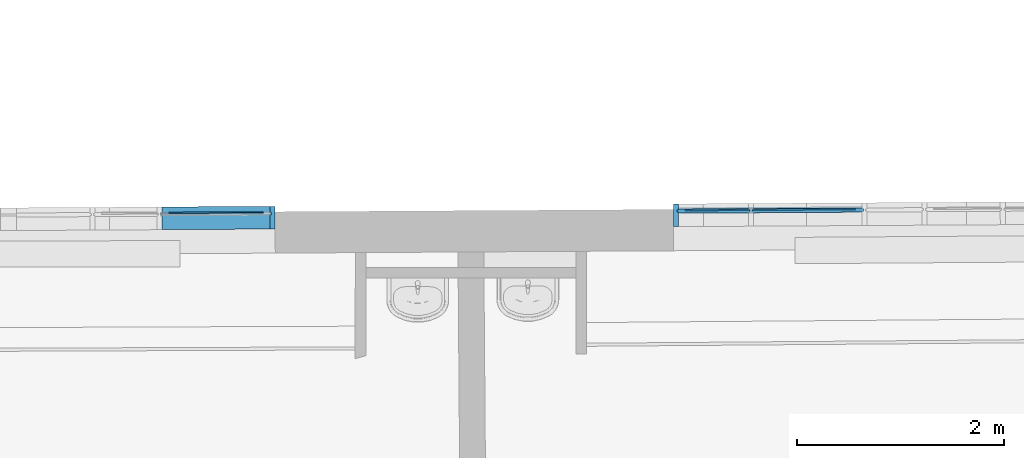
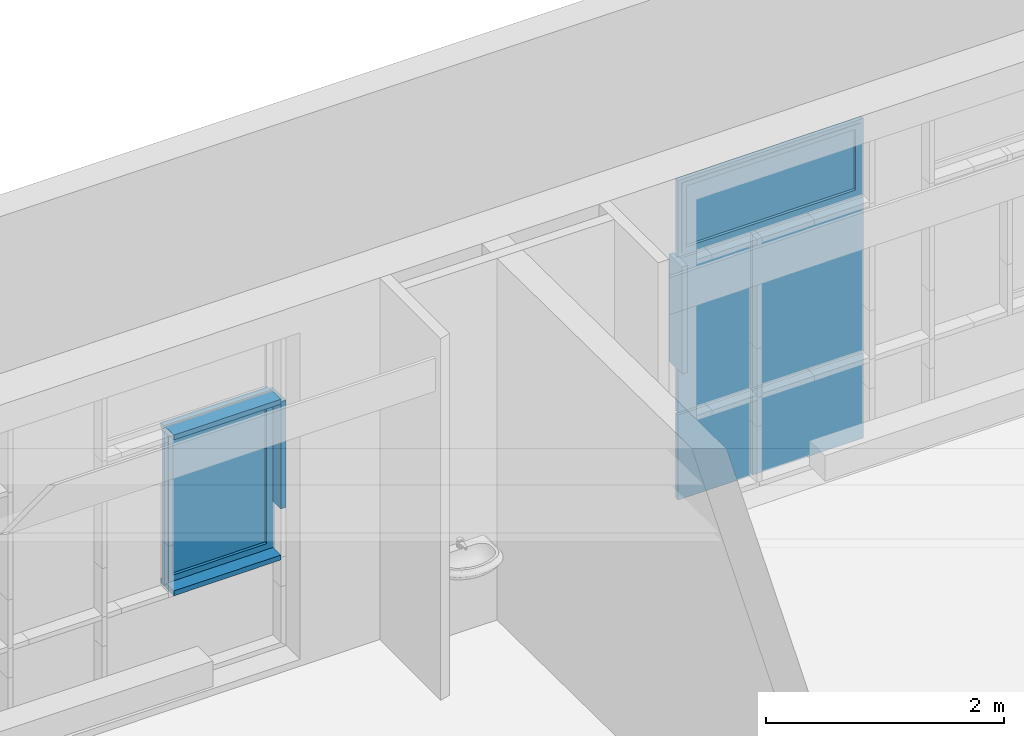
# One storey, part 131 of 196: 12 building element parts, 2 elements without a shape of their own.
"""IFC2X3 building model written with IfcOpenShell, lengths in metres."""

import ifcopenshell
import ifcopenshell.guid

model = None  # the IFC model being written
_history = None  # IfcOwnerHistory: only IFC2X3 demands one
_inside = {}  # id of a spatial element -> (the spatial element, [elements in it])
_under = {}  # id of a project, library or spatial element -> (it, [spatial elements below it])
_declared = {}  # id of a project -> (the project, [libraries it declares])
_typed = {}  # id of a type object -> (the type object, [elements of that type])
_made_of = {}  # id of a material, layer set ... -> (it, [elements and type objects made of it])


def new_model(schema):
    """Start an empty IFC model of exactly this schema.

    Asked for "IFC4X3", IfcOpenShell would pick the latest addendum, in which some entities
    have other attributes; the version numbers below select the first issue.
    IFC2X3 requires an IfcOwnerHistory on every rooted entity: one is made here for all.
    """
    global model, _history
    if schema == "IFC4X3":
        model = ifcopenshell.file(schema_version=(4, 3, 0, 0))
    else:
        model = ifcopenshell.file(schema=schema)
    _inside.clear()
    _under.clear()
    _declared.clear()
    _typed.clear()
    _made_of.clear()
    _history = None
    if model.schema == "IFC2X3":
        org = make("IfcOrganization", Name="unknown")
        user = make(
            "IfcPersonAndOrganization",
            ThePerson=make("IfcPerson", FamilyName="unknown"),
            TheOrganization=org,
        )
        app = make(
            "IfcApplication",
            ApplicationDeveloper=org,
            Version="unknown",
            ApplicationFullName="unknown",
            ApplicationIdentifier="unknown",
        )
        _history = make(
            "IfcOwnerHistory",
            OwningUser=user,
            OwningApplication=app,
            ChangeAction="ADDED",
            CreationDate=0,
        )
    return model


def make(cls, **values):
    """One entity of the class cls with the attributes given. An attribute that is None is left unset."""
    return model.create_entity(
        cls, **{name: value for name, value in values.items() if value is not None}
    )


def entity(cls, *values):
    """Any entity or typed value of the class cls, its attributes in the order of the schema. None: left unset."""
    e = model.create_entity(cls)
    for i, value in enumerate(values):
        if value is not None:
            e[i] = value
    return e


def rooted(cls, **values):
    """An entity with a GlobalId (a new one), such as an element, a storey or a relation."""
    return make(cls, GlobalId=ifcopenshell.guid.new(), OwnerHistory=_history, **values)


def si_unit(unit_type, name, prefix=None):
    """IfcSIUnit, for example si_unit("LENGTHUNIT", "METRE", prefix="MILLI")."""
    return make("IfcSIUnit", UnitType=unit_type, Prefix=prefix, Name=name)


def converted_unit(unit_type, name, factor, base, dimensions=None, offset=None):
    """IfcConversionBasedUnit, such as the inch: factor (a typed value) times the base unit."""
    return make(
        "IfcConversionBasedUnit"
        if offset is None
        else "IfcConversionBasedUnitWithOffset",
        ConversionOffset=offset,
        Dimensions=None
        if dimensions is None
        else entity("IfcDimensionalExponents", *dimensions),
        UnitType=unit_type,
        Name=name,
        ConversionFactor=make(
            "IfcMeasureWithUnit", ValueComponent=factor, UnitComponent=base
        ),
    )


def derived_unit(unit_type, elements):
    """IfcDerivedUnit: a product of units, each with its exponent."""
    return make(
        "IfcDerivedUnit",
        Elements=[
            make("IfcDerivedUnitElement", Unit=unit, Exponent=power)
            for unit, power in elements
        ],
        UnitType=unit_type,
    )


def money_unit(currency):
    """IfcMonetaryUnit."""
    return make("IfcMonetaryUnit", Currency=currency)


def assignment(units):
    """IfcUnitAssignment: the units of a project."""
    return None if units is None else make("IfcUnitAssignment", Units=units)


def point(xyz):
    """IfcCartesianPoint."""
    return None if xyz is None else make("IfcCartesianPoint", Coordinates=xyz)


def direction(xyz):
    """IfcDirection."""
    return None if xyz is None else make("IfcDirection", DirectionRatios=xyz)


def frame(location, z_axis=None, x_axis=None):
    """IfcAxis2Placement3D, a coordinate frame: its origin and axes. An axis left out is left unset."""
    return make(
        "IfcAxis2Placement3D",
        Location=point(location),
        Axis=direction(z_axis),
        RefDirection=direction(x_axis),
    )


def origin_with_axes():
    """The frame at (0, 0, 0) with the z axis (0, 0, 1) and the x axis (1, 0, 0) written out."""
    return frame((0.0, 0.0, 0.0), z_axis=(0.0, 0.0, 1.0), x_axis=(1.0, 0.0, 0.0))


def place(relative_to, where):
    """IfcLocalPlacement: puts the frame where relative to a parent placement (None: the world)."""
    return make(
        "IfcLocalPlacement", PlacementRelTo=relative_to, RelativePlacement=where
    )


def context(
    kind, dimensions, precision=None, world=None, true_north=None, identifier=None
):
    """IfcGeometricRepresentationContext, for example the 3D "Model" context."""
    return make(
        "IfcGeometricRepresentationContext",
        ContextIdentifier=identifier,
        ContextType=kind,
        CoordinateSpaceDimension=dimensions,
        Precision=precision,
        WorldCoordinateSystem=world,
        TrueNorth=true_north,
    )


def subcontext(parent, identifier, kind, view, scale=None):
    """IfcGeometricRepresentationSubContext, for example "Body" below "Model"."""
    return make(
        "IfcGeometricRepresentationSubContext",
        ContextIdentifier=identifier,
        ContextType=kind,
        ParentContext=parent,
        TargetScale=scale,
        TargetView=view,
    )


def project(units=None, contexts=None):
    """IfcProject with its units and contexts."""
    return rooted(
        "IfcProject",
        Name="project",
        RepresentationContexts=contexts,
        UnitsInContext=assignment(units),
    )


def spatial(cls, under=None, at=None, **own):
    """A site, building, storey or space (cls), placed at a placement, below another one or the project."""
    s = rooted(cls, ObjectPlacement=at, **own)
    if under is not None:
        _under.setdefault(under.id(), (under, []))[1].append(s)
    return s


def faces_of(points, faces, orient=None, outer=None):
    """IfcFace entities. A face is a list of loops; a loop is a list of indices into points, from 0.

    orient and outer hold one flag for each loop. By default every Orientation is true, the
    first loop of a face is its IfcFaceOuterBound and the others are IfcFaceBound.
    """
    made = []
    for i, loops in enumerate(faces):
        bounds = []
        for j, loop in enumerate(loops):
            is_outer = j == 0 if outer is None else outer[i][j]
            bounds.append(
                make(
                    "IfcFaceOuterBound" if is_outer else "IfcFaceBound",
                    Bound=make("IfcPolyLoop", Polygon=[points[k] for k in loop]),
                    Orientation=True if orient is None else orient[i][j],
                )
            )
        made.append(make("IfcFace", Bounds=bounds))
    return made


def faceted_brep(points, faces, orient=None, outer=None, voids=None):
    """IfcFacetedBrep: a solid bounded by flat faces; with voids (closed shells), ...WithVoids."""
    shared = [point(p) for p in points]
    hull = make("IfcClosedShell", CfsFaces=faces_of(shared, faces, orient, outer))
    if voids is None:
        return make("IfcFacetedBrep", Outer=hull)
    return make(
        "IfcFacetedBrepWithVoids",
        Outer=hull,
        Voids=[
            make(cls, CfsFaces=faces_of(shared, fs, o, b)) for cls, fs, o, b in voids
        ],
    )


def shape(context_of_items, identifier, shape_type, items):
    """IfcShapeRepresentation: the items that make up one representation, for example the "Body"."""
    return make(
        "IfcShapeRepresentation",
        ContextOfItems=context_of_items,
        RepresentationIdentifier=identifier,
        RepresentationType=shape_type,
        Items=items,
    )


def material(Name=None, Category=None):
    """IfcMaterial."""
    return make("IfcMaterial", Name=Name, Category=Category)


def made_of(thing, what):
    """Note that an element or type object is made of a material, layer set ...; save() writes the relation."""
    if what is not None:
        _made_of.setdefault(what.id(), (what, []))[1].append(thing)
    return thing


def type_object(cls, material=None, **own):
    """A type object (cls), such as IfcWallType, which elements share."""
    return made_of(rooted(cls, **own), material)


def element(
    cls,
    number,
    at=None,
    inside=None,
    cuts=None,
    type_object=None,
    material=None,
    context=None,
    identifier="Body",
    shape_type=None,
    held_by="IfcProductDefinitionShape",
    body=None,
    shapes=None,
    **own,
):
    """One element of the class cls, such as IfcWall. Its Tag is "e" and its number.

    at: its placement. inside: the storey or other place that contains it. cuts: it is an
    opening in that element (IfcRelVoidsElement). A single representation is given by context,
    identifier, shape_type and body (its items); several are given by shapes. held_by: the class
    of the entity that holds the representations. save() writes the other relations.
    """
    e = rooted(cls, Tag="e%d" % number, ObjectPlacement=at, **own)
    if body is not None:
        shapes = [shape(context, identifier, shape_type, body)]
    if shapes is not None:
        e.Representation = make(held_by, Representations=shapes)
    if inside is not None:
        _inside.setdefault(inside.id(), (inside, []))[1].append(e)
    if cuts is not None:
        rooted(
            "IfcRelVoidsElement", RelatingBuildingElement=cuts, RelatedOpeningElement=e
        )
    if type_object is not None:
        _typed.setdefault(type_object.id(), (type_object, []))[1].append(e)
    return made_of(e, material)


def aggregate(whole, parts):
    """IfcRelAggregates: a whole, such as a stair, and the parts it consists of."""
    return rooted("IfcRelAggregates", RelatingObject=whole, RelatedObjects=parts)


def save(model, path):
    """Write the relations noted so far, then the file.

    IfcRelAggregates (storeys below a building ...), IfcRelContainedInSpatialStructure (elements
    in a storey), IfcRelDefinesByType, IfcRelAssociatesMaterial and IfcRelDeclares: one each for
    every whole, place, type object, material and project.
    """
    for whole, parts in _under.values():
        aggregate(whole, parts)
    for where, things in _inside.values():
        rooted(
            "IfcRelContainedInSpatialStructure",
            RelatedElements=things,
            RelatingStructure=where,
        )
    for kind, things in _typed.values():
        rooted("IfcRelDefinesByType", RelatedObjects=things, RelatingType=kind)
    for what, things in _made_of.values():
        rooted("IfcRelAssociatesMaterial", RelatedObjects=things, RelatingMaterial=what)
    for by, libraries in _declared.values():
        rooted("IfcRelDeclares", RelatingContext=by, RelatedDefinitions=libraries)
    model.write(path)


model = new_model("IFC2X3")

# Units and contexts
model_context = context("Model", 3, precision=1e-05, world=origin_with_axes(), true_north=direction((0.0, 1.0)))
body_context = subcontext(model_context, "Body", "Model", "MODEL_VIEW")
ifc_project = project(units=[si_unit("LENGTHUNIT", "METRE"), si_unit("AREAUNIT", "SQUARE_METRE"), si_unit("VOLUMEUNIT", "CUBIC_METRE"), converted_unit("PLANEANGLEUNIT", "DEGREE", entity("IfcPlaneAngleMeasure", 0.0174532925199), si_unit("PLANEANGLEUNIT", "RADIAN"), dimensions=[0, 0, 0, 0, 0, 0, 0]), money_unit("EUR"), converted_unit("TIMEUNIT", "Year", entity("IfcTimeMeasure", 31556926.0), si_unit("TIMEUNIT", "SECOND"), dimensions=[0, 0, 1, 0, 0, 0, 0]), si_unit("MASSUNIT", "GRAM", prefix="KILO"), si_unit("THERMODYNAMICTEMPERATUREUNIT", "DEGREE_CELSIUS"), si_unit("LUMINOUSINTENSITYUNIT", "LUMEN"), si_unit("ENERGYUNIT", "JOULE", prefix="MEGA"), derived_unit("THERMALCONDUCTANCEUNIT", [(si_unit("POWERUNIT", "WATT"), 1), (si_unit("LENGTHUNIT", "METRE"), -1), (si_unit("THERMODYNAMICTEMPERATUREUNIT", "KELVIN"), -1)]), derived_unit("SPECIFICHEATCAPACITYUNIT", [(si_unit("ENERGYUNIT", "JOULE"), 1), (si_unit("MASSUNIT", "GRAM", prefix="KILO"), -1), (si_unit("THERMODYNAMICTEMPERATUREUNIT", "KELVIN"), -1)]), derived_unit("MASSDENSITYUNIT", [(si_unit("MASSUNIT", "GRAM", prefix="KILO"), 1), (si_unit("VOLUMEUNIT", "CUBIC_METRE"), -1)])], contexts=[model_context])

# Site, building, storey
site_placement = place(None, origin_with_axes())
site = spatial("IfcSite", under=ifc_project, at=site_placement, Name="Gelände", CompositionType="ELEMENT")
building_placement = place(site_placement, origin_with_axes())
building = spatial("IfcBuilding", under=site, at=building_placement, Name="Gebäude", CompositionType="ELEMENT")
storey_placement = place(building_placement, frame((0.0, 0.0, -3.0), z_axis=(0.0, 0.0, 1.0), x_axis=(1.0, 0.0, 0.0)))
storey = spatial("IfcBuildingStorey", under=building, at=storey_placement, Name="KELLERGESCHOSS", CompositionType="ELEMENT", Elevation=-3.0)

# Proxy, building element parts
building_element_proxy_type = type_object("IfcBuildingElementProxyType", Name="Fassadentyp", PredefinedType="NOTDEFINED")
proxy_1_placement = place(storey_placement, frame((-32.8906294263, 53.9050625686, 0.421025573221), z_axis=(0.0, 0.0, 1.0), x_axis=(1.0, 0.0, 0.0)))
proxy_1 = element("IfcBuildingElementProxy", 1, at=proxy_1_placement, inside=storey, type_object=building_element_proxy_type, Name="Fassade-002")
ifc_material_1 = material(Name="53_Metall, Aluminium")
building_element_part_1_placement = place(proxy_1_placement, origin_with_axes())
building_element_part_1 = element("IfcBuildingElementPart", 2, at=building_element_part_1_placement, material=ifc_material_1, Name="53_Metall, Aluminium", context=body_context, shape_type="Brep", body=[
    faceted_brep([(4.03681666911, 0.0538486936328, 0.945851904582), (2.99416972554, 0.0476890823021, 0.945851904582), (2.99414018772, 0.052688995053, 0.945851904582), (4.03678713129, 0.0588486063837, 0.945851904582), (3.99181745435, 0.0535828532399, 0.990851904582), (3.0391689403, 0.0479549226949, 0.990851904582), (3.03913940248, 0.0529548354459, 0.990851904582), (3.99178791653, 0.0585827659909, 0.990851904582)], [[[0, 1, 2, 3]], [[0, 4, 5, 1]], [[1, 5, 6, 2]], [[3, 2, 6, 7]], [[4, 0, 3, 7]], [[5, 4, 7, 6]]]),
    faceted_brep([(2.99416972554, 0.0476890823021, 0.945851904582), (2.99416972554, 0.0476890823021, 2.49500002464), (2.99414018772, 0.052688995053, 2.49500002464), (2.99414018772, 0.052688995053, 0.945851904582), (3.0391689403, 0.0479549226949, 0.990851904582), (3.0391689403, 0.0479549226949, 2.45000002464), (3.03913940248, 0.0529548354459, 2.45000002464), (3.03913940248, 0.0529548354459, 0.990851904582)], [[[0, 1, 2, 3]], [[0, 4, 5, 1]], [[1, 5, 6, 2]], [[3, 2, 6, 7]], [[4, 0, 3, 7]], [[5, 4, 7, 6]]]),
    faceted_brep([(4.03681666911, 0.0538486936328, 2.49500002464), (3.99181745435, 0.0535828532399, 2.45000002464), (3.99178791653, 0.0585827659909, 2.45000002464), (4.03678713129, 0.0588486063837, 2.49500002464), (2.99416972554, 0.0476890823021, 2.49500002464), (3.0391689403, 0.0479549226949, 2.45000002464), (3.03913940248, 0.0529548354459, 2.45000002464), (2.99414018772, 0.052688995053, 2.49500002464)], [[[0, 1, 2, 3]], [[0, 4, 5, 1]], [[1, 5, 6, 2]], [[3, 2, 6, 7]], [[4, 0, 3, 7]], [[5, 4, 7, 6]]]),
    faceted_brep([(4.03681666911, 0.0538486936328, 0.945851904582), (3.99181745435, 0.0535828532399, 0.990851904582), (3.99178791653, 0.0585827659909, 0.990851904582), (4.03678713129, 0.0588486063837, 0.945851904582), (4.03681666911, 0.0538486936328, 2.49500002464), (3.99181745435, 0.0535828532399, 2.45000002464), (3.99178791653, 0.0585827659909, 2.45000002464), (4.03678713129, 0.0588486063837, 2.49500002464)], [[[0, 1, 2, 3]], [[0, 4, 5, 1]], [[1, 5, 6, 2]], [[3, 2, 6, 7]], [[4, 0, 3, 7]], [[5, 4, 7, 6]]]),
    faceted_brep([(4.03711204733, 0.0038495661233, 0.945851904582), (2.99446510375, -0.00231004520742, 0.945851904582), (2.99416972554, 0.0476890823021, 0.945851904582), (4.03681666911, 0.0538486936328, 0.945851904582), (4.01711239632, 0.00373141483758, 0.965851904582), (3.01446475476, -0.0021918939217, 0.965851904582), (3.01416937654, 0.0478072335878, 0.965851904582), (4.01681701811, 0.0537305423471, 0.965851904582)], [[[0, 1, 2, 3]], [[0, 4, 5, 1]], [[1, 5, 6, 2]], [[3, 2, 6, 7]], [[4, 0, 3, 7]], [[5, 4, 7, 6]]]),
    faceted_brep([(2.99446510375, -0.00231004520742, 0.945851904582), (2.99446510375, -0.00231004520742, 2.49500002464), (2.99416972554, 0.0476890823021, 2.49500002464), (2.99416972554, 0.0476890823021, 0.945851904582), (3.01446475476, -0.0021918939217, 0.965851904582), (3.01446475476, -0.0021918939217, 2.47500002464), (3.01416937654, 0.0478072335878, 2.47500002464), (3.01416937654, 0.0478072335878, 0.965851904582)], [[[0, 1, 2, 3]], [[0, 4, 5, 1]], [[1, 5, 6, 2]], [[3, 2, 6, 7]], [[4, 0, 3, 7]], [[5, 4, 7, 6]]]),
    faceted_brep([(4.03711204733, 0.0038495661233, 2.49500002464), (4.01711239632, 0.00373141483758, 2.47500002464), (4.01681701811, 0.0537305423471, 2.47500002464), (4.03681666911, 0.0538486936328, 2.49500002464), (2.99446510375, -0.00231004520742, 2.49500002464), (3.01446475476, -0.0021918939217, 2.47500002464), (3.01416937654, 0.0478072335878, 2.47500002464), (2.99416972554, 0.0476890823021, 2.49500002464)], [[[0, 1, 2, 3]], [[0, 4, 5, 1]], [[1, 5, 6, 2]], [[3, 2, 6, 7]], [[4, 0, 3, 7]], [[5, 4, 7, 6]]]),
    faceted_brep([(4.03711204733, 0.0038495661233, 0.945851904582), (4.01711239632, 0.00373141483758, 0.965851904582), (4.01681701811, 0.0537305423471, 0.965851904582), (4.03681666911, 0.0538486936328, 0.945851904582), (4.03711204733, 0.0038495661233, 2.49500002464), (4.01711239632, 0.00373141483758, 2.47500002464), (4.01681701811, 0.0537305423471, 2.47500002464), (4.03681666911, 0.0538486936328, 2.49500002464)], [[[0, 1, 2, 3]], [[0, 4, 5, 1]], [[1, 5, 6, 2]], [[3, 2, 6, 7]], [[4, 0, 3, 7]], [[5, 4, 7, 6]]]),
    faceted_brep([(4.05211178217, 0.00393817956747, 0.930851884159), (2.97946536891, -0.00239865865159, 0.930851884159), (2.97922906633, 0.037600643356, 0.930851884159), (4.0518754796, 0.0439374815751, 0.930851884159), (4.03711204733, 0.0038495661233, 0.945851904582), (2.99446510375, -0.00231004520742, 0.945851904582), (2.99422880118, 0.0376892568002, 0.945851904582), (4.03687574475, 0.0438488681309, 0.945851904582)], [[[0, 1, 2, 3]], [[0, 4, 5, 1]], [[1, 5, 6, 2]], [[3, 2, 6, 7]], [[4, 0, 3, 7]], [[5, 4, 7, 6]]]),
    faceted_brep([(2.97946536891, -0.00239865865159, 0.930851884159), (2.97946536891, -0.00239865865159, 2.51000004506), (2.97922906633, 0.037600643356, 2.51000004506), (2.97922906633, 0.037600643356, 0.930851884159), (2.99446510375, -0.00231004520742, 0.945851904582), (2.99446510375, -0.00231004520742, 2.49500002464), (2.99422880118, 0.0376892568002, 2.49500002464), (2.99422880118, 0.0376892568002, 0.945851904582)], [[[0, 1, 2, 3]], [[0, 4, 5, 1]], [[1, 5, 6, 2]], [[3, 2, 6, 7]], [[4, 0, 3, 7]], [[5, 4, 7, 6]]]),
    faceted_brep([(2.97946536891, -0.00239865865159, 2.51000004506), (4.05211178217, 0.00393817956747, 2.51000004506), (4.0518754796, 0.0439374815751, 2.51000004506), (2.97922906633, 0.037600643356, 2.51000004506), (2.99446510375, -0.00231004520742, 2.49500002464), (4.03711204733, 0.0038495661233, 2.49500002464), (4.03687574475, 0.0438488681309, 2.49500002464), (2.99422880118, 0.0376892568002, 2.49500002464)], [[[0, 1, 2, 3]], [[0, 4, 5, 1]], [[1, 5, 6, 2]], [[3, 2, 6, 7]], [[4, 0, 3, 7]], [[5, 4, 7, 6]]]),
    faceted_brep([(4.05211178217, 0.00393817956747, 2.51000004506), (4.05211178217, 0.00393817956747, 0.930851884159), (4.0518754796, 0.0439374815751, 0.930851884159), (4.0518754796, 0.0439374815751, 2.51000004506), (4.03711204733, 0.0038495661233, 2.49500002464), (4.03711204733, 0.0038495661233, 0.945851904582), (4.03687574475, 0.0438488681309, 0.945851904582), (4.03687574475, 0.0438488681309, 2.49500002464)], [[[0, 1, 2, 3]], [[0, 4, 5, 1]], [[1, 5, 6, 2]], [[3, 2, 6, 7]], [[4, 0, 3, 7]], [[5, 4, 7, 6]]]),
    faceted_brep([(3.97181780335, 0.0534647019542, 1.01085190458), (3.97214271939, -0.00153433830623, 1.01085190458), (3.97214271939, -0.00153433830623, 2.43000002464), (3.97181780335, 0.0534647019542, 2.43000002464), (4.01681701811, 0.0537305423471, 0.965851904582), (4.01714193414, -0.00126849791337, 0.965851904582), (4.01714193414, -0.00126849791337, 2.47500002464), (4.01681701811, 0.0537305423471, 2.47500002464)], [[[0, 1, 2, 3]], [[4, 5, 1, 0]], [[1, 5, 6, 2]], [[3, 2, 6, 7]], [[0, 3, 7, 4]], [[7, 6, 5, 4]]]),
    faceted_brep([(3.01416937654, 0.0478072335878, 0.965851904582), (3.01449429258, -0.00719180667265, 0.965851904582), (3.01449429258, -0.00719180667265, 2.47500002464), (3.01416937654, 0.0478072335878, 2.47500002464), (3.0591685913, 0.0480730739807, 1.01085190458), (3.05949350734, -0.00692596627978, 1.01085190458), (3.05949350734, -0.00692596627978, 2.43000002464), (3.0591685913, 0.0480730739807, 2.43000002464)], [[[0, 1, 2, 3]], [[4, 5, 1, 0]], [[1, 5, 6, 2]], [[3, 2, 6, 7]], [[0, 3, 7, 4]], [[7, 6, 5, 4]]]),
    faceted_brep([(3.01416937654, 0.0478072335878, 0.965851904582), (3.01449429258, -0.00719180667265, 0.965851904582), (3.05949350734, -0.00692596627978, 1.01085190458), (3.0591685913, 0.0480730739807, 1.01085190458), (4.01681701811, 0.0537305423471, 0.965851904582), (4.01714193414, -0.00126849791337, 0.965851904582), (3.97214271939, -0.00153433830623, 1.01085190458), (3.97181780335, 0.0534647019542, 1.01085190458)], [[[0, 1, 2, 3]], [[4, 5, 1, 0]], [[1, 5, 6, 2]], [[3, 2, 6, 7]], [[0, 3, 7, 4]], [[7, 6, 5, 4]]]),
    faceted_brep([(4.01681701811, 0.0537305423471, 2.47500002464), (4.01714193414, -0.00126849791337, 2.47500002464), (3.97214271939, -0.00153433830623, 2.43000002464), (3.97181780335, 0.0534647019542, 2.43000002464), (3.01416937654, 0.0478072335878, 2.47500002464), (3.01449429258, -0.00719180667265, 2.47500002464), (3.05949350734, -0.00692596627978, 2.43000002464), (3.0591685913, 0.0480730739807, 2.43000002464)], [[[0, 1, 2, 3]], [[4, 5, 1, 0]], [[1, 5, 6, 2]], [[3, 2, 6, 7]], [[0, 3, 7, 4]], [[7, 6, 5, 4]]]),
])
ifc_material_2 = material(Name="45_Glas, Normalglas")
building_element_part_2_placement = place(proxy_1_placement, origin_with_axes())
building_element_part_2 = element("IfcBuildingElementPart", 3, at=building_element_part_2_placement, material=ifc_material_2, Name="45_Glas, Normalglas", context=body_context, shape_type="Brep", body=[
    faceted_brep([(3.97187687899, 0.0434648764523, 1.01085190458), (3.97197140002, 0.0274651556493, 1.01085190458), (3.05932218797, 0.0220735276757, 1.01085190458), (3.05922766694, 0.0380732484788, 1.01085190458), (3.97187687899, 0.0434648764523, 2.43000002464), (3.97197140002, 0.0274651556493, 2.43000002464), (3.05932218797, 0.0220735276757, 2.43000002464), (3.05922766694, 0.0380732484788, 2.43000002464)], [[[0, 1, 2, 3]], [[4, 5, 1, 0]], [[1, 5, 6, 2]], [[3, 2, 6, 7]], [[0, 3, 7, 4]], [[7, 6, 5, 4]]]),
])
building_element_part_3_placement = place(proxy_1_placement, origin_with_axes())
building_element_part_3 = element("IfcBuildingElementPart", 4, at=building_element_part_3_placement, material=ifc_material_1, Name="53_Metall, Aluminium", context=body_context, shape_type="Brep", body=[
    faceted_brep([(2.99440603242, 0.00768978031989, 2.51000003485), (2.99440603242, 0.00768978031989, 2.49500003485), (2.99523309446, -0.132307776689, 2.49500003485), (2.99523309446, -0.132307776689, 2.54500003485), (2.99440603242, 0.00768978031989, 2.54500003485), (2.99440603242, 0.00768978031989, 2.53000003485), (2.9942878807, 0.0276894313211, 2.53000003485), (2.9942878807, 0.0276894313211, 2.54500003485), (2.99393342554, 0.0876883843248, 2.54500003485), (2.99393342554, 0.0876883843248, 2.49500003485), (2.9942878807, 0.0276894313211, 2.49500003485), (2.9942878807, 0.0276894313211, 2.51000003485), (4.03705296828, 0.0138493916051, 2.51000003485), (4.03705296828, 0.0138493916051, 2.49500003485), (4.03788002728, -0.126148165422, 2.49500003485), (4.03788002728, -0.126148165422, 2.54500003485), (4.03705296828, 0.0138493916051, 2.54500003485), (4.03705296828, 0.0138493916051, 2.53000003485), (4.03693481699, 0.0338490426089, 2.53000003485), (4.03693481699, 0.0338490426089, 2.54500003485), (4.03658036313, 0.0938479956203, 2.54500003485), (4.03658036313, 0.0938479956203, 2.49500003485), (4.03693481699, 0.0338490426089, 2.49500003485), (4.03693481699, 0.0338490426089, 2.51000003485)], [[[0, 1, 2, 3, 4, 5, 6, 7, 8, 9, 10, 11]], [[1, 0, 12, 13]], [[1, 13, 14, 2]], [[2, 14, 15, 3]], [[4, 3, 15, 16]], [[4, 16, 17, 5]], [[5, 17, 18, 6]], [[7, 6, 18, 19]], [[19, 20, 8, 7]], [[8, 20, 21, 9]], [[22, 10, 9, 21]], [[11, 10, 22, 23]], [[0, 11, 23, 12]], [[23, 22, 21, 20, 19, 18, 17, 16, 15, 14, 13, 12]]]),
])
building_element_part_4_placement = place(proxy_1_placement, origin_with_axes())
building_element_part_4 = element("IfcBuildingElementPart", 5, at=building_element_part_4_placement, material=ifc_material_1, Name="53_Metall, Aluminium", context=body_context, shape_type="Brep", body=[
    faceted_brep([(2.99440603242, 0.00768978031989, 0.910851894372), (2.99440603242, 0.00768978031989, 0.895851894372), (2.99523309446, -0.132307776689, 0.895851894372), (2.99523309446, -0.132307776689, 0.945851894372), (2.99440603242, 0.00768978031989, 0.945851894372), (2.99440603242, 0.00768978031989, 0.930851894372), (2.9942878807, 0.0276894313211, 0.930851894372), (2.9942878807, 0.0276894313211, 0.945851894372), (2.99393342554, 0.0876883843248, 0.945851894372), (2.99393342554, 0.0876883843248, 0.895851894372), (2.9942878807, 0.0276894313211, 0.895851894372), (2.9942878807, 0.0276894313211, 0.910851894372), (4.03705296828, 0.0138493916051, 0.910851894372), (4.03705296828, 0.0138493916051, 0.895851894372), (4.03788002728, -0.126148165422, 0.895851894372), (4.03788002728, -0.126148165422, 0.945851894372), (4.03705296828, 0.0138493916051, 0.945851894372), (4.03705296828, 0.0138493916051, 0.930851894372), (4.03693481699, 0.0338490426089, 0.930851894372), (4.03693481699, 0.0338490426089, 0.945851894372), (4.03658036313, 0.0938479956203, 0.945851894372), (4.03658036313, 0.0938479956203, 0.895851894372), (4.03693481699, 0.0338490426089, 0.895851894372), (4.03693481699, 0.0338490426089, 0.910851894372)], [[[0, 1, 2, 3, 4, 5, 6, 7, 8, 9, 10, 11]], [[1, 0, 12, 13]], [[1, 13, 14, 2]], [[2, 14, 15, 3]], [[4, 3, 15, 16]], [[4, 16, 17, 5]], [[5, 17, 18, 6]], [[7, 6, 18, 19]], [[19, 20, 8, 7]], [[8, 20, 21, 9]], [[22, 10, 9, 21]], [[11, 10, 22, 23]], [[0, 11, 23, 12]], [[23, 22, 21, 20, 19, 18, 17, 16, 15, 14, 13, 12]]]),
])
building_element_part_5_placement = place(proxy_1_placement, origin_with_axes())
building_element_part_5 = element("IfcBuildingElementPart", 6, at=building_element_part_5_placement, material=ifc_material_1, Name="53_Metall, Aluminium", context=body_context, shape_type="Brep", body=[
    faceted_brep([(4.05205270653, 0.0139380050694, 2.52000003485), (4.03705296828, 0.0138493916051, 2.52000003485), (4.03788002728, -0.126148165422, 2.52000003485), (4.08787915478, -0.125852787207, 2.52000003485), (4.08657949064, 0.0941433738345, 2.52000003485), (4.03658036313, 0.0938479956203, 2.52000003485), (4.03693481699, 0.0338490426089, 2.52000003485), (4.05193455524, 0.0339376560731, 2.52000003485), (4.05205270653, 0.0139380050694, 1.42000003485), (4.03705296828, 0.0138493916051, 1.42000003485), (4.03788002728, -0.126148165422, 1.42000003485), (4.08787915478, -0.125852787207, 1.42000003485), (4.08657949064, 0.0941433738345, 1.42000003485), (4.03658036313, 0.0938479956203, 1.42000003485), (4.03693481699, 0.0338490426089, 1.42000003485), (4.05193455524, 0.0339376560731, 1.42000003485)], [[[0, 1, 2, 3, 4, 5, 6, 7]], [[0, 8, 9, 1]], [[9, 10, 2, 1]], [[10, 11, 3, 2]], [[11, 12, 4, 3]], [[12, 13, 5, 4]], [[6, 5, 13, 14]], [[14, 15, 7, 6]], [[7, 15, 8, 0]], [[8, 15, 14, 13, 12, 11, 10, 9]]]),
])
aggregate(proxy_1, [building_element_part_1, building_element_part_2, building_element_part_3, building_element_part_4, building_element_part_5])

proxy_2_placement = place(storey_placement, frame((-23.6479994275, 53.9595773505, 0.421025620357), z_axis=(0.0, 0.0, 1.0), x_axis=(1.0, 0.0, 0.0)))
proxy_2 = element("IfcBuildingElementProxy", 7, at=proxy_2_placement, inside=storey, type_object=building_element_proxy_type, Name="Fassade-002")
building_element_part_6_placement = place(proxy_2_placement, origin_with_axes())
building_element_part_6 = element("IfcBuildingElementPart", 8, at=building_element_part_6_placement, material=ifc_material_2, Name="45_Glas, Normalglas", context=body_context, shape_type="Brep", body=[
    faceted_brep([(-0.536861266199, -0.0231719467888, 2.5099999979), (-0.00814320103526, -0.0200484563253, 2.5099999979), (-0.00837950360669, 0.0199508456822, 2.5099999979), (-0.537097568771, 0.0168273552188, 2.5099999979), (-0.536861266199, -0.0231719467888, 1.41999998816), (-0.536861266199, -0.0231719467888, 0.930851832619), (-0.00814320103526, -0.0200484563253, 0.930851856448), (0.542605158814, -0.0167948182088, 0.930851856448), (0.542605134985, -0.0167948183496, 1.41999998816), (0.542605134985, -0.0167948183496, 2.5099999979), (0.542368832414, 0.023204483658, 2.5099999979), (0.542368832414, 0.023204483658, 1.41999998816), (0.542368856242, 0.0232044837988, 0.930851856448), (-0.00837950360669, 0.0199508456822, 0.930851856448), (-0.537097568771, 0.0168273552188, 0.930851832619), (-0.537097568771, 0.0168273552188, 1.41999998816)], [[[0, 1, 2, 3]], [[0, 4, 5, 6, 7, 8, 9, 1]], [[1, 9, 10, 2]], [[3, 2, 10, 11, 12, 13, 14, 15]], [[4, 0, 3, 15]], [[5, 4, 15, 14]], [[6, 5, 14, 13]], [[7, 6, 13, 12]], [[8, 7, 12, 11]], [[9, 8, 11, 10]]]),
])
building_element_part_7_placement = place(proxy_2_placement, origin_with_axes())
building_element_part_7 = element("IfcBuildingElementPart", 9, at=building_element_part_7_placement, material=ifc_material_2, Name="45_Glas, Normalglas", context=body_context, shape_type="Brep", body=[
    faceted_brep([(-0.536861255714, -0.0231719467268, 0.91085185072), (-0.00814321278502, -0.0200484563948, 0.91085185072), (-0.00837951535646, 0.0199508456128, 0.91085185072), (-0.537097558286, 0.0168273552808, 0.91085185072), (-0.536861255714, -0.0231719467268, 0.619999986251), (-0.536861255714, -0.0231719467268, 0.0349999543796), (-0.00814321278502, -0.0200484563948, 0.0349999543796), (0.542605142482, -0.0167948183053, 0.0349999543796), (0.542605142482, -0.0167948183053, 0.619999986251), (0.542605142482, -0.0167948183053, 0.91085185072), (0.542368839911, 0.0232044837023, 0.91085185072), (0.542368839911, 0.0232044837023, 0.619999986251), (0.542368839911, 0.0232044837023, 0.0349999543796), (-0.00837951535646, 0.0199508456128, 0.0349999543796), (-0.537097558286, 0.0168273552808, 0.0349999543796), (-0.537097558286, 0.0168273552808, 0.619999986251)], [[[0, 1, 2, 3]], [[0, 4, 5, 6, 7, 8, 9, 1]], [[1, 9, 10, 2]], [[3, 2, 10, 11, 12, 13, 14, 15]], [[4, 0, 3, 15]], [[5, 4, 15, 14]], [[6, 5, 14, 13]], [[7, 6, 13, 12]], [[8, 7, 12, 11]], [[9, 8, 11, 10]]]),
])
building_element_part_8_placement = place(proxy_2_placement, origin_with_axes())
building_element_part_8 = element("IfcBuildingElementPart", 10, at=building_element_part_8_placement, material=ifc_material_2, Name="45_Glas, Normalglas", context=body_context, shape_type="Brep", body=[
    faceted_brep([(-1.26257519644, -0.0274592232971, 2.50999999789), (-1.00812576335, -0.0259560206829, 2.50999999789), (-1.00836206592, 0.0140432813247, 2.50999999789), (-1.26281149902, 0.0125400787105, 2.50999999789), (-1.26257519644, -0.0274592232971, 1.41999998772), (-1.26257519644, -0.0274592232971, 0.930851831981), (-1.00812576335, -0.0259560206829, 0.930851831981), (-0.556860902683, -0.0232900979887, 0.930851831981), (-0.556860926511, -0.0232900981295, 1.41999998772), (-0.556860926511, -0.0232900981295, 2.50999999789), (-0.557097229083, 0.0167092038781, 2.50999999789), (-0.557097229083, 0.0167092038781, 1.41999998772), (-0.557097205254, 0.0167092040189, 0.930851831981), (-1.00836206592, 0.0140432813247, 0.930851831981), (-1.26281149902, 0.0125400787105, 0.930851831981), (-1.26281149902, 0.0125400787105, 1.41999998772)], [[[0, 1, 2, 3]], [[0, 4, 5, 6, 7, 8, 9, 1]], [[1, 9, 10, 2]], [[3, 2, 10, 11, 12, 13, 14, 15]], [[4, 0, 3, 15]], [[5, 4, 15, 14]], [[6, 5, 14, 13]], [[7, 6, 13, 12]], [[8, 7, 12, 11]], [[9, 8, 11, 10]]]),
])
building_element_part_9_placement = place(proxy_2_placement, origin_with_axes())
building_element_part_9 = element("IfcBuildingElementPart", 11, at=building_element_part_9_placement, material=ifc_material_2, Name="45_Glas, Normalglas", context=body_context, shape_type="Brep", body=[
    faceted_brep([(-1.26257520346, -0.0274592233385, 0.910851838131), (-1.00812576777, -0.0259560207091, 0.910851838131), (-1.00836207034, 0.0140432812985, 0.910851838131), (-1.26281150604, 0.0125400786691, 0.910851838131), (-1.26257520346, -0.0274592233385, 0.619999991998), (-1.26257520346, -0.0274592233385, 0.0349999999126), (-1.00812575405, -0.025956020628, 0.0349999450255), (-0.5568609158, -0.0232900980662, 0.0349999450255), (-0.5568609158, -0.0232900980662, 0.619999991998), (-0.5568609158, -0.0232900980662, 0.910851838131), (-0.557097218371, 0.0167092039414, 0.910851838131), (-0.557097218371, 0.0167092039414, 0.619999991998), (-0.557097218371, 0.0167092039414, 0.0349999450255), (-1.00836205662, 0.0140432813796, 0.0349999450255), (-1.26281150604, 0.0125400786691, 0.0349999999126), (-1.26281150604, 0.0125400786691, 0.619999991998)], [[[0, 1, 2, 3]], [[0, 4, 5, 6, 7, 8, 9, 1]], [[1, 9, 10, 2]], [[3, 2, 10, 11, 12, 13, 14, 15]], [[4, 0, 3, 15]], [[5, 4, 15, 14]], [[6, 5, 14, 13]], [[7, 6, 13, 12]], [[8, 7, 12, 11]], [[9, 8, 11, 10]]]),
])
building_element_part_10_placement = place(proxy_2_placement, origin_with_axes())
building_element_part_10 = element("IfcBuildingElementPart", 12, at=building_element_part_10_placement, material=ifc_material_1, Name="53_Metall, Aluminium", context=body_context, shape_type="Brep", body=[
    faceted_brep([(0.527310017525, 0.0331156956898, 2.54499999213), (-1.24787083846, 0.0226285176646, 2.54499999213), (-1.24790037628, 0.0276284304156, 2.54499999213), (0.527280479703, 0.0381156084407, 2.54499999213), (0.482310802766, 0.0328498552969, 2.58999999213), (-1.2028716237, 0.0228943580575, 2.58999999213), (-1.20290116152, 0.0278942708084, 2.58999999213), (0.482281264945, 0.0378497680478, 2.58999999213)], [[[0, 1, 2, 3]], [[0, 4, 5, 1]], [[1, 5, 6, 2]], [[3, 2, 6, 7]], [[4, 0, 3, 7]], [[5, 4, 7, 6]]]),
    faceted_brep([(-1.24787083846, 0.0226285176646, 2.54499999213), (-1.24787083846, 0.0226285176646, 3.29999989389), (-1.24790037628, 0.0276284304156, 3.29999989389), (-1.24790037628, 0.0276284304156, 2.54499999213), (-1.2028716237, 0.0228943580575, 2.58999999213), (-1.2028716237, 0.0228943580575, 3.25499989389), (-1.20290116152, 0.0278942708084, 3.25499989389), (-1.20290116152, 0.0278942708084, 2.58999999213)], [[[0, 1, 2, 3]], [[0, 4, 5, 1]], [[1, 5, 6, 2]], [[3, 2, 6, 7]], [[4, 0, 3, 7]], [[5, 4, 7, 6]]]),
    faceted_brep([(0.527310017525, 0.0331156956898, 3.29999989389), (0.482310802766, 0.0328498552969, 3.25499989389), (0.482281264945, 0.0378497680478, 3.25499989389), (0.527280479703, 0.0381156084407, 3.29999989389), (-1.24787083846, 0.0226285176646, 3.29999989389), (-1.2028716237, 0.0228943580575, 3.25499989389), (-1.20290116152, 0.0278942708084, 3.25499989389), (-1.24790037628, 0.0276284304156, 3.29999989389)], [[[0, 1, 2, 3]], [[0, 4, 5, 1]], [[1, 5, 6, 2]], [[3, 2, 6, 7]], [[4, 0, 3, 7]], [[5, 4, 7, 6]]]),
    faceted_brep([(0.527310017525, 0.0331156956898, 2.54499999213), (0.482310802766, 0.0328498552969, 2.58999999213), (0.482281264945, 0.0378497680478, 2.58999999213), (0.527280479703, 0.0381156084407, 2.54499999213), (0.527310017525, 0.0331156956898, 3.29999989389), (0.482310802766, 0.0328498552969, 3.25499989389), (0.482281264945, 0.0378497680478, 3.25499989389), (0.527280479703, 0.0381156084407, 3.29999989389)], [[[0, 1, 2, 3]], [[0, 4, 5, 1]], [[1, 5, 6, 2]], [[3, 2, 6, 7]], [[4, 0, 3, 7]], [[5, 4, 7, 6]]]),
    faceted_brep([(0.527605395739, -0.0168834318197, 2.54499999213), (-1.24757546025, -0.0273706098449, 2.54499999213), (-1.24787083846, 0.0226285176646, 2.54499999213), (0.527310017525, 0.0331156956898, 2.54499999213), (0.507605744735, -0.0170015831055, 2.56499999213), (-1.22757580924, -0.0272524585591, 2.56499999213), (-1.22787118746, 0.0227466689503, 2.56499999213), (0.507310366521, 0.032997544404, 2.56499999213)], [[[0, 1, 2, 3]], [[0, 4, 5, 1]], [[1, 5, 6, 2]], [[3, 2, 6, 7]], [[4, 0, 3, 7]], [[5, 4, 7, 6]]]),
    faceted_brep([(-1.24757546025, -0.0273706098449, 2.54499999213), (-1.24757546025, -0.0273706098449, 3.29999989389), (-1.24787083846, 0.0226285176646, 3.29999989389), (-1.24787083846, 0.0226285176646, 2.54499999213), (-1.22757580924, -0.0272524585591, 2.56499999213), (-1.22757580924, -0.0272524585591, 3.27999989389), (-1.22787118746, 0.0227466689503, 3.27999989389), (-1.22787118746, 0.0227466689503, 2.56499999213)], [[[0, 1, 2, 3]], [[0, 4, 5, 1]], [[1, 5, 6, 2]], [[3, 2, 6, 7]], [[4, 0, 3, 7]], [[5, 4, 7, 6]]]),
    faceted_brep([(0.527605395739, -0.0168834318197, 3.29999989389), (0.507605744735, -0.0170015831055, 3.27999989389), (0.507310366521, 0.032997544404, 3.27999989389), (0.527310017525, 0.0331156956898, 3.29999989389), (-1.24757546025, -0.0273706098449, 3.29999989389), (-1.22757580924, -0.0272524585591, 3.27999989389), (-1.22787118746, 0.0227466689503, 3.27999989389), (-1.24787083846, 0.0226285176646, 3.29999989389)], [[[0, 1, 2, 3]], [[0, 4, 5, 1]], [[1, 5, 6, 2]], [[3, 2, 6, 7]], [[4, 0, 3, 7]], [[5, 4, 7, 6]]]),
    faceted_brep([(0.527605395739, -0.0168834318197, 2.54499999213), (0.507605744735, -0.0170015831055, 2.56499999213), (0.507310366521, 0.032997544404, 2.56499999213), (0.527310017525, 0.0331156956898, 2.54499999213), (0.527605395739, -0.0168834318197, 3.29999989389), (0.507605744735, -0.0170015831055, 3.27999989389), (0.507310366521, 0.032997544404, 3.27999989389), (0.527310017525, 0.0331156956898, 3.29999989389)], [[[0, 1, 2, 3]], [[0, 4, 5, 1]], [[1, 5, 6, 2]], [[3, 2, 6, 7]], [[4, 0, 3, 7]], [[5, 4, 7, 6]]]),
    faceted_brep([(0.542605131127, -0.0167948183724, 2.52999999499), (-1.26257519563, -0.0274592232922, 2.52999999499), (-1.2628114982, 0.0125400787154, 2.52999999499), (0.542368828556, 0.0232044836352, 2.52999999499), (0.527605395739, -0.0168834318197, 2.54499999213), (-1.24757546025, -0.0273706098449, 2.54499999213), (-1.24781176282, 0.0126286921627, 2.54499999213), (0.527369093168, 0.0231158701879, 2.54499999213)], [[[0, 1, 2, 3]], [[0, 4, 5, 1]], [[1, 5, 6, 2]], [[3, 2, 6, 7]], [[4, 0, 3, 7]], [[5, 4, 7, 6]]]),
    faceted_brep([(-1.26257519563, -0.0274592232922, 2.52999999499), (-1.26257519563, -0.0274592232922, 3.31499989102), (-1.2628114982, 0.0125400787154, 3.31499989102), (-1.2628114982, 0.0125400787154, 2.52999999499), (-1.24757546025, -0.0273706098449, 2.54499999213), (-1.24757546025, -0.0273706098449, 3.29999989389), (-1.24781176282, 0.0126286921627, 3.29999989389), (-1.24781176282, 0.0126286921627, 2.54499999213)], [[[0, 1, 2, 3]], [[0, 4, 5, 1]], [[1, 5, 6, 2]], [[3, 2, 6, 7]], [[4, 0, 3, 7]], [[5, 4, 7, 6]]]),
    faceted_brep([(-1.26257519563, -0.0274592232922, 3.31499989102), (0.542605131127, -0.0167948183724, 3.31499989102), (0.542368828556, 0.0232044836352, 3.31499989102), (-1.2628114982, 0.0125400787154, 3.31499989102), (-1.24757546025, -0.0273706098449, 3.29999989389), (0.527605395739, -0.0168834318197, 3.29999989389), (0.527369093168, 0.0231158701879, 3.29999989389), (-1.24781176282, 0.0126286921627, 3.29999989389)], [[[0, 1, 2, 3]], [[0, 4, 5, 1]], [[1, 5, 6, 2]], [[3, 2, 6, 7]], [[4, 0, 3, 7]], [[5, 4, 7, 6]]]),
    faceted_brep([(0.542605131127, -0.0167948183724, 3.31499989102), (0.542605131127, -0.0167948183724, 2.52999999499), (0.542368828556, 0.0232044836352, 2.52999999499), (0.542368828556, 0.0232044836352, 3.31499989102), (0.527605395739, -0.0168834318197, 3.29999989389), (0.527605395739, -0.0168834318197, 2.54499999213), (0.527369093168, 0.0231158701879, 2.54499999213), (0.527369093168, 0.0231158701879, 3.29999989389)], [[[0, 1, 2, 3]], [[0, 4, 5, 1]], [[1, 5, 6, 2]], [[3, 2, 6, 7]], [[4, 0, 3, 7]], [[5, 4, 7, 6]]]),
    faceted_brep([(0.462311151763, 0.0327317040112, 2.60999999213), (0.462636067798, -0.0222673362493, 2.60999999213), (0.462636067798, -0.0222673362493, 3.23499989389), (0.462311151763, 0.0327317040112, 3.23499989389), (0.507310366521, 0.032997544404, 2.56499999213), (0.507635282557, -0.0220014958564, 2.56499999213), (0.507635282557, -0.0220014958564, 3.27999989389), (0.507310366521, 0.032997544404, 3.27999989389)], [[[0, 1, 2, 3]], [[4, 5, 1, 0]], [[1, 5, 6, 2]], [[3, 2, 6, 7]], [[0, 3, 7, 4]], [[7, 6, 5, 4]]]),
    faceted_brep([(-1.22787118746, 0.0227466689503, 2.56499999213), (-1.22754627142, -0.0322523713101, 2.56499999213), (-1.22754627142, -0.0322523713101, 3.27999989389), (-1.22787118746, 0.0227466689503, 3.27999989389), (-1.1828719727, 0.0230125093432, 2.60999999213), (-1.18254705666, -0.0319865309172, 2.60999999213), (-1.18254705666, -0.0319865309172, 3.23499989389), (-1.1828719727, 0.0230125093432, 3.23499989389)], [[[0, 1, 2, 3]], [[4, 5, 1, 0]], [[1, 5, 6, 2]], [[3, 2, 6, 7]], [[0, 3, 7, 4]], [[7, 6, 5, 4]]]),
    faceted_brep([(-1.22787118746, 0.0227466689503, 2.56499999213), (-1.22754627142, -0.0322523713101, 2.56499999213), (-1.18254705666, -0.0319865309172, 2.60999999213), (-1.1828719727, 0.0230125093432, 2.60999999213), (0.507310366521, 0.032997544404, 2.56499999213), (0.507635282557, -0.0220014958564, 2.56499999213), (0.462636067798, -0.0222673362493, 2.60999999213), (0.462311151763, 0.0327317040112, 2.60999999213)], [[[0, 1, 2, 3]], [[4, 5, 1, 0]], [[1, 5, 6, 2]], [[3, 2, 6, 7]], [[0, 3, 7, 4]], [[7, 6, 5, 4]]]),
    faceted_brep([(0.507310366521, 0.032997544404, 3.27999989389), (0.507635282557, -0.0220014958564, 3.27999989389), (0.462636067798, -0.0222673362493, 3.23499989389), (0.462311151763, 0.0327317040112, 3.23499989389), (-1.22787118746, 0.0227466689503, 3.27999989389), (-1.22754627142, -0.0322523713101, 3.27999989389), (-1.18254705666, -0.0319865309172, 3.23499989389), (-1.1828719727, 0.0230125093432, 3.23499989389)], [[[0, 1, 2, 3]], [[4, 5, 1, 0]], [[1, 5, 6, 2]], [[3, 2, 6, 7]], [[0, 3, 7, 4]], [[7, 6, 5, 4]]]),
])
building_element_part_11_placement = place(proxy_2_placement, origin_with_axes())
building_element_part_11 = element("IfcBuildingElementPart", 13, at=building_element_part_11_placement, material=ifc_material_2, Name="45_Glas, Normalglas", context=body_context, shape_type="Brep", body=[
    faceted_brep([(0.462370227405, 0.0227318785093, 2.60999999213), (0.462464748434, 0.00673215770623, 2.60999999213), (-1.18271837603, -0.00298703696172, 2.60999999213), (-1.18281289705, 0.0130126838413, 2.60999999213), (0.462370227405, 0.0227318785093, 3.23499989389), (0.462464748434, 0.00673215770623, 3.23499989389), (-1.18271837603, -0.00298703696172, 3.23499989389), (-1.18281289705, 0.0130126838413, 3.23499989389)], [[[0, 1, 2, 3]], [[4, 5, 1, 0]], [[1, 5, 6, 2]], [[3, 2, 6, 7]], [[0, 3, 7, 4]], [[7, 6, 5, 4]]]),
])
building_element_part_12_placement = place(proxy_2_placement, origin_with_axes())
building_element_part_12 = element("IfcBuildingElementPart", 14, at=building_element_part_12_placement, material=ifc_material_1, Name="53_Metall, Aluminium", context=body_context, shape_type="Brep", body=[
    faceted_brep([(-1.26263428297, -0.0174593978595, 2.51999998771), (-1.26275243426, 0.00254025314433, 2.51999998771), (-1.247752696, 0.00262886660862, 2.51999998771), (-1.24810714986, 0.06262781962, 2.51999998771), (-1.29810627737, 0.0623324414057, 2.51999998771), (-1.29680661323, -0.157663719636, 2.51999998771), (-1.24680748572, -0.157368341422, 2.51999998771), (-1.24763454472, -0.0173707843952, 2.51999998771), (-1.26263428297, -0.0174593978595, 1.41999998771), (-1.26275243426, 0.00254025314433, 1.41999998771), (-1.247752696, 0.00262886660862, 1.41999998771), (-1.24810714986, 0.06262781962, 1.41999998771), (-1.29810627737, 0.0623324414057, 1.41999998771), (-1.29680661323, -0.157663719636, 1.41999998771), (-1.24680748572, -0.157368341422, 1.41999998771), (-1.24763454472, -0.0173707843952, 1.41999998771)], [[[0, 1, 2, 3, 4, 5, 6, 7]], [[1, 0, 8, 9]], [[10, 2, 1, 9]], [[2, 10, 11, 3]], [[12, 4, 3, 11]], [[13, 5, 4, 12]], [[14, 6, 5, 13]], [[15, 7, 6, 14]], [[0, 7, 15, 8]], [[8, 15, 14, 13, 12, 11, 10, 9]]]),
])
aggregate(proxy_2, [building_element_part_6, building_element_part_7, building_element_part_8, building_element_part_9, building_element_part_10, building_element_part_11, building_element_part_12])

save(model, "model.ifc")
